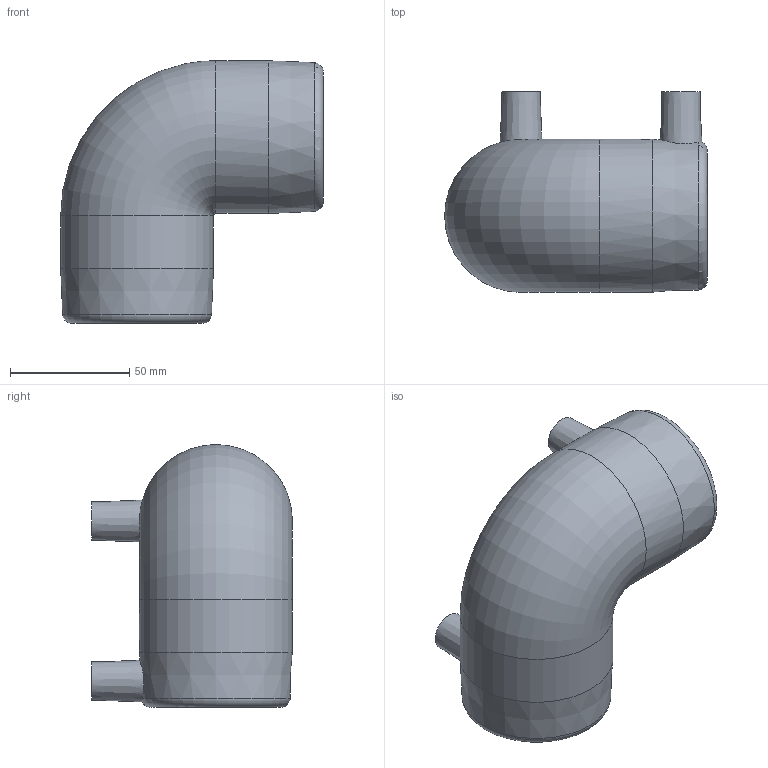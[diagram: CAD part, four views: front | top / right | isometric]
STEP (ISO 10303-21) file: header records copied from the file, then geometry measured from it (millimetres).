
FILE_DESCRIPTION(/* description */ ('Unknown'),/* implementation_level */ '2;1');
FILE_NAME(/* name */ 'GE9P050C',/* time_stamp */ '2021-02-11T15:48:50+01:00',/* author */ ('Unknown'),/* organization */ ('Unknown'),/* preprocessor_version */ 'ST-DEVELOPER v16.7',/* originating_system */ 'Solid Edge',/* authorisation */ 'Unknown');
FILE_SCHEMA (('AUTOMOTIVE_DESIGN {1 0 10303 214 3 1 1}'));
Length unit declared in the file: millimetre
Products named in the file (1): GE9P050C
Bounding box: 110 x 84 x 110 mm (x, y, z)
Volume: 191196.9 mm3; surface area: 55941.1 mm2
Topology: 1 solids, 1 shells, 34 faces, 65 edges, 41 vertices
Faces by surface type: cylinder 14, plane 12, cone 4, torus 4
Full cylindrical faces by diameter (mm): 4 x2, 12 x2, 50 x2, 64 x2
Entity records: 852 total; most frequent: CARTESIAN_POINT 234, DIRECTION 128, ORIENTED_EDGE 86, AXIS2_PLACEMENT_3D 64, EDGE_LOOP 59, FACE_BOUND 59, EDGE_CURVE 43, VERTEX_POINT 34
